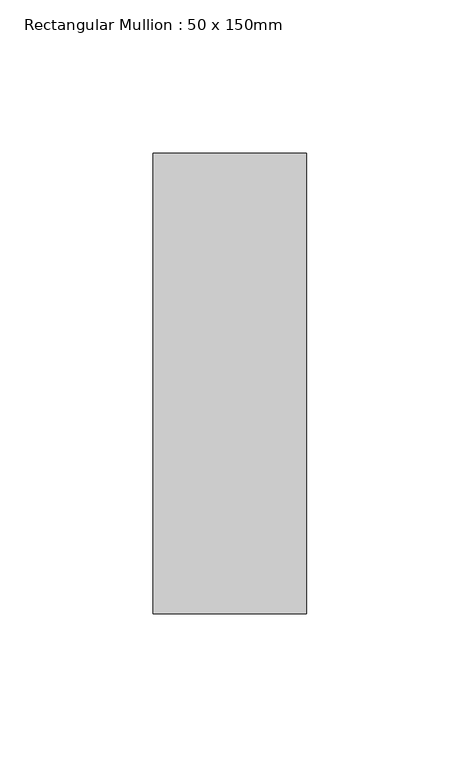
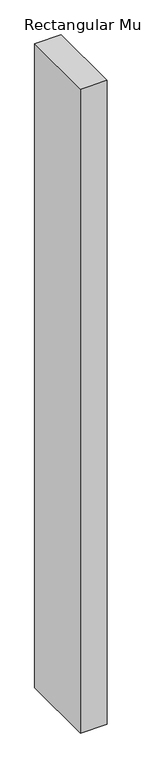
"""IFC4 building model written with IfcOpenShell, lengths in millimetres: member geometry, Rectangular Mullion : 50 x 150mm."""

from ifc_helpers import new_model, si_unit, frame, origin, place, context, project, spatial, polyline, outline, extrude, source, transform, mapped, element, save


def rectangular_mullion_50_x_150mm_53b4c1bd(model_context):
    return source(origin(), model_context, "Body", "SweptSolid", [
        extrude(outline(polyline([(0.0, 75.0), (0.0, -75.0), (-50.0, -75.0), (-50.0, 75.0), (0.0, 75.0)])), frame((0.0, 0.0, -1286.6666667), z_axis=(0.0, 0.0, 1.0), x_axis=(1.0, 0.0, 0.0)), (0.0, 0.0, 1.0), 1286.6666667),
    ])


if __name__ == "__main__":
    model = new_model("IFC4")
    model_context = context("Model", 3, world=origin())
    ifc_project = project(units=[si_unit("LENGTHUNIT", "METRE", prefix="MILLI")], contexts=[model_context])
    site = spatial("IfcSite", under=ifc_project)
    building = spatial("IfcBuilding", under=site)
    placement = place(None, origin())
    rectangular_mullion_50_x_150mm_shape = rectangular_mullion_50_x_150mm_53b4c1bd(model_context)
    element("IfcMember", 1, ObjectType="Rectangular Mullion : 50 x 150mm", at=placement, inside=building, context=model_context, shape_type="MappedRepresentation", body=[
        mapped(rectangular_mullion_50_x_150mm_shape, transform((0.0, 0.0, 0.0), x_axis=(1.0, 0.0, 0.0), y_axis=(0.0, 1.0, 0.0), z_axis=(0.0, 0.0, 1.0))),
    ])
    save(model, "model.ifc")
